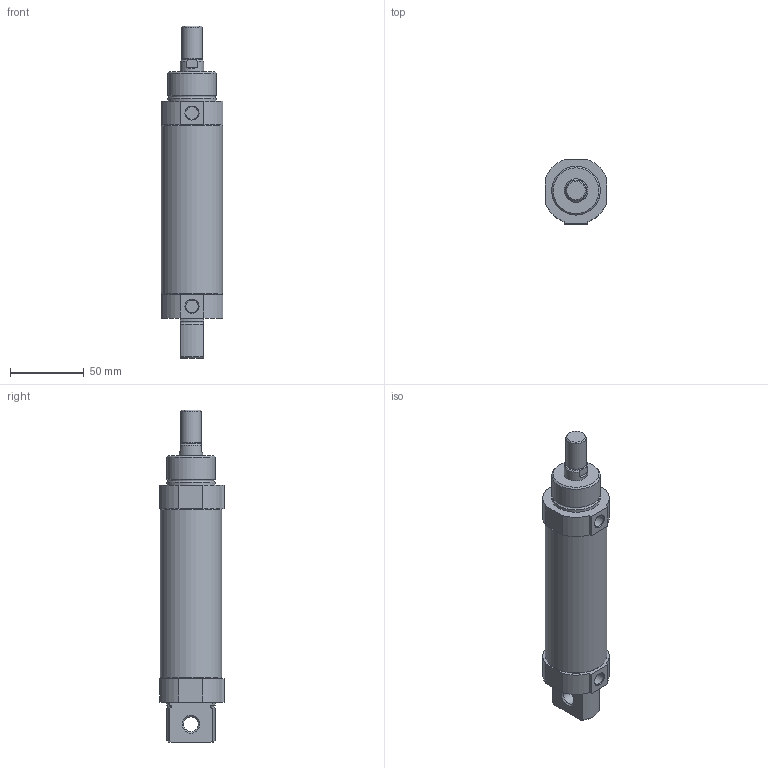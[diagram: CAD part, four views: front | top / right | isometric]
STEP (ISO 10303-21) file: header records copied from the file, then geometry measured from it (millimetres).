
FILE_DESCRIPTION((''),'2;1');
FILE_NAME('I:\3D電子目錄\氣缸\SDA\SDA40\SDA40\SDA40x75.stp','2007-08-06T10:36:58',('Administrator'),(''),'Autodesk Inventor 2008','Autodesk Inventor 2008','');
FILE_SCHEMA(('AUTOMOTIVE_DESIGN { 1 0 10303 214 1 1 1 1 }'));
Length unit declared in the file: millimetre
Products named in the file (1): SDA40X75
Bounding box: 42 x 43.5 x 225 mm (x, y, z)
Volume: 240521.9 mm3; surface area: 30157.4 mm2
Topology: 1 solids, 1 shells, 65 faces, 152 edges, 98 vertices
Faces by surface type: plane 27, cylinder 21, cone 12, torus 3, bspline 2
Full cylindrical faces by diameter (mm): 8.5 x2, 10 x1, 12.6 x1, 14 x1, 16 x1, 33 x2, 41.8 x1
Entity records: 1946 total; most frequent: CARTESIAN_POINT 486, DIRECTION 306, ORIENTED_EDGE 266, EDGE_CURVE 133, AXIS2_PLACEMENT_3D 121, VERTEX_POINT 97, EDGE_LOOP 94, FACE_OUTER_BOUND 65
